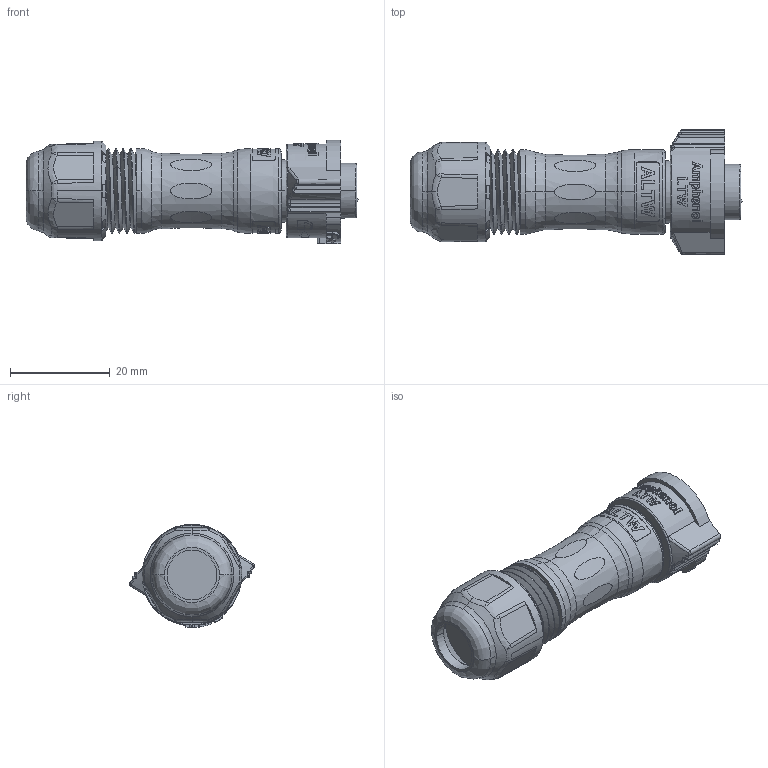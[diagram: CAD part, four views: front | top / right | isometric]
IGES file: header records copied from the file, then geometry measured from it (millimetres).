
Start section:  PTC IGES file: bd-02bffa-ql8ap0.igs
Global section: file name: bd-02bffa-ql8ap0.igs; native system: Creo Parametric by Parametric Technology Corporation; preprocessor: 2017170; author: L210039; organization: Unknown; date: 20211022.154549; units: millimetre
Bounding box: 66.45 x 25 x 20.7 mm (x, y, z)
Volume: 13802.6 mm3; surface area: 6822.3 mm2
Topology: 1 solids, 8 shells, 930 faces, 2516 edges, 1652 vertices
Faces by surface type: bspline 490, revolution 259, extrusion 181
